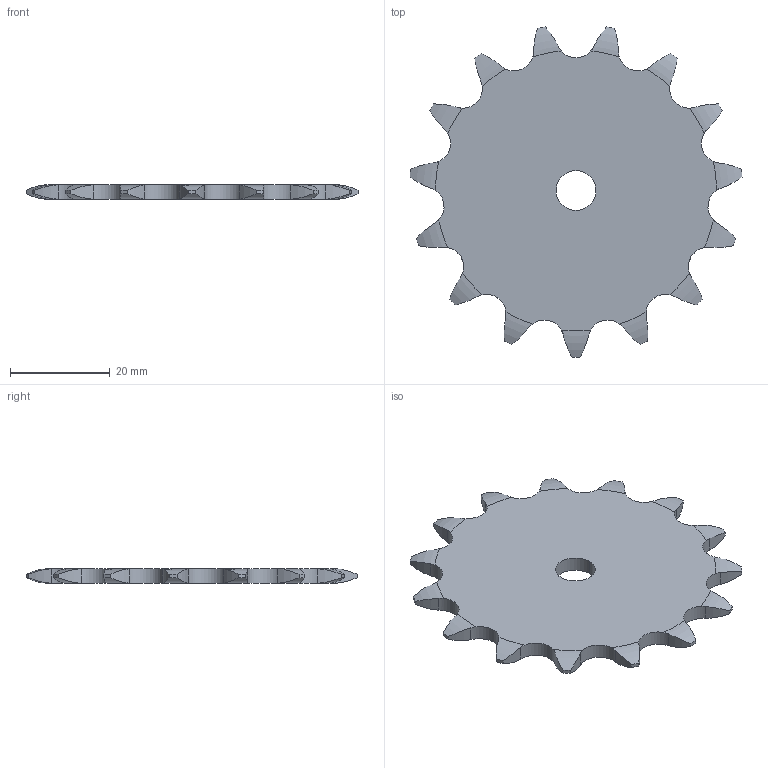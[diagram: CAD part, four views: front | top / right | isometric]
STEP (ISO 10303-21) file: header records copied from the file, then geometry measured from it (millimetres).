
FILE_DESCRIPTION((''),'2;1');
FILE_NAME('500-231-0015_PRT','2021-02-12T',('Brieden'),('Brieden'),'PRO/ENGINEER BY PARAMETRIC TECHNOLOGY CORPORATION, 2010160','PRO/ENGINEER BY PARAMETRIC TECHNOLOGY CORPORATION, 2010160','');
FILE_SCHEMA(('AUTOMOTIVE_DESIGN { 1 0 10303 214 1 1 1 1 }'));
Length unit declared in the file: millimetre
Products named in the file (1): 500-231-0015_PRT
Bounding box: 66.58 x 66.23 x 3 mm (x, y, z)
Volume: 7794 mm3; surface area: 6110 mm2
Topology: 1 solids, 1 shells, 94 faces, 276 edges, 184 vertices
Faces by surface type: cylinder 62, torus 30, plane 2
Entity records: 4438 total; most frequent: CARTESIAN_POINT 1179, ORIENTED_EDGE 552, DIRECTION 438, PRESENTATION_STYLE_ASSIGNMENT 277, STYLED_ITEM 277, CURVE_STYLE 276, EDGE_CURVE 276, AXIS2_PLACEMENT_3D 188
